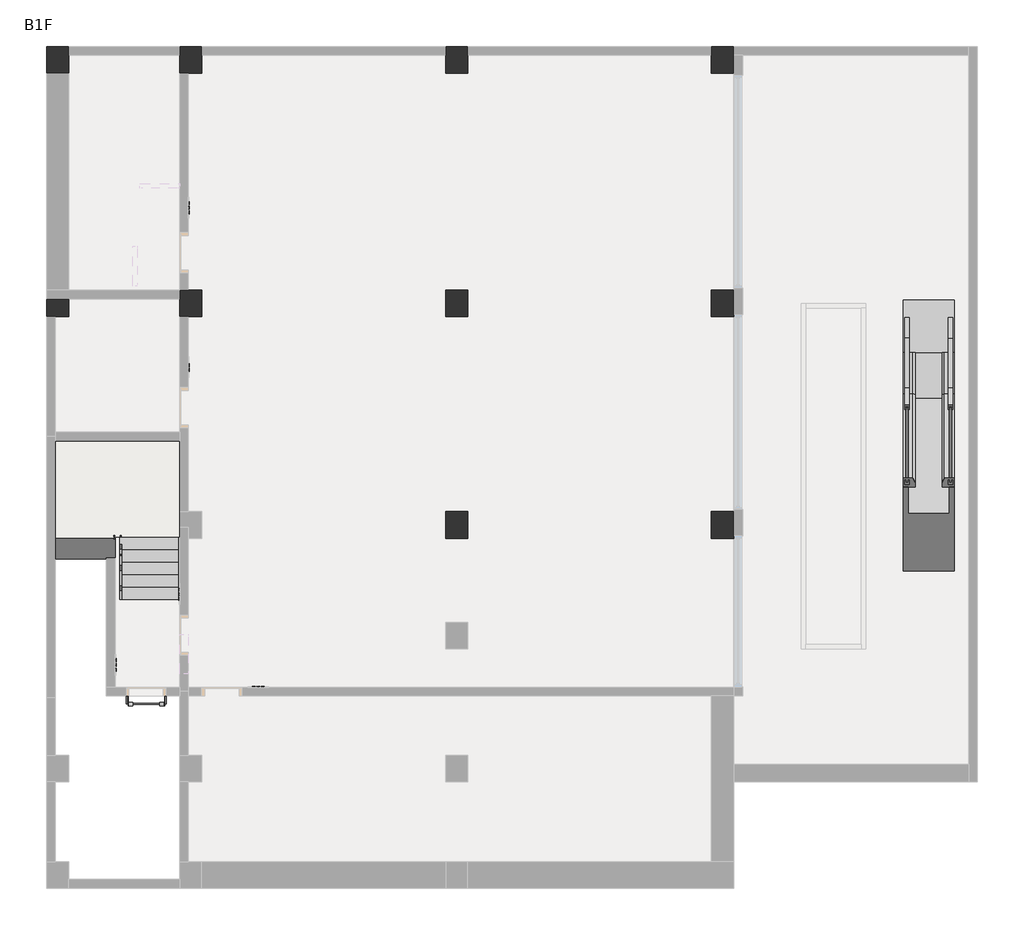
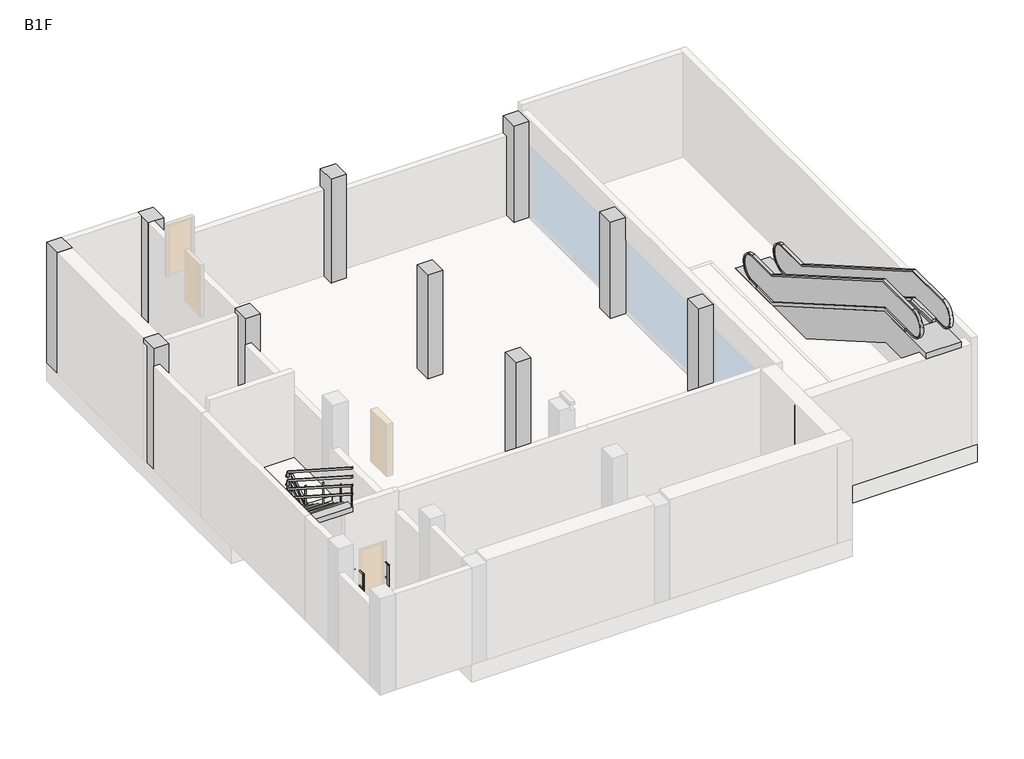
# One storey, part 2 of 2: 11 columns, 7 proxies, 2 slabs, 2 stair flights, 1 railing.
"""IFC4 building model written with IfcOpenShell, lengths in millimetres."""

from ifc_helpers import new_model, si_unit, frame, origin, place, context, project, spatial, polyline, outline, extrude, faceted_brep, transform, mapped, element, save
from components import electrical_equipment_015b20d0, specialty_equipment_72ed7d0d, railing_3f690383

model = new_model("IFC4")

# Units and contexts
model_context = context("Model", 3, world=origin())
ifc_project = project(units=[si_unit("LENGTHUNIT", "METRE", prefix="MILLI")], contexts=[model_context])

# Site, building, storey
site = spatial("IfcSite", under=ifc_project)
building = spatial("IfcBuilding", under=site)
storey = spatial("IfcBuildingStorey", under=building, Name="B1F", Elevation=-3600.0)

# Proxies
placement = place(None, origin())
electrical_equipment_shape = electrical_equipment_015b20d0(model_context)
element("IfcBuildingElementProxy", 1, Name="XX211- 에스컬레이터 공칭스텝폭 800 : 800형", ObjectType="XX211- 에스컬레이터 공칭스텝폭 800 : 800형", at=placement, inside=storey, context=model_context, shape_type="MappedRepresentation", body=[
    mapped(electrical_equipment_shape, transform((19650.0, 8436.9854476, -3600.0), x_axis=(0.0, -1.0, 0.0), y_axis=(1.0, 0.0, 0.0), z_axis=(0.0, 0.0, 1.0))),
])
specialty_equipment_shape = specialty_equipment_72ed7d0d(model_context)
element("IfcBuildingElementProxy", 2, Name="래더 : 표준", ObjectType="래더 : 표준", at=placement, inside=storey, context=model_context, shape_type="MappedRepresentation", body=[
    mapped(specialty_equipment_shape, transform((2000.0, 1752.7, -3600.0), x_axis=(-1.0, 0.0, 0.0), y_axis=(0.0, -1.0, 0.0), z_axis=(0.0, 0.0, 1.0))),
])
element("IfcBuildingElementProxy", 3, Name="600 mm Arial", ObjectType="600 mm Arial", at=placement, inside=storey, context=model_context, shape_type="SweptSolid", body=[
    extrude(outline(polyline([(4020.231068, -2400.1080632), (4020.231068, -2382.6725214), (4021.5645555, -2377.8935489), (4026.8445494, -2376.5523533), (4065.6467232, -2376.5523533), (4070.5721482, -2377.9783371), (4072.2447886, -2382.6725214), (4072.2447886, -2400.1080632), (4070.9190091, -2404.8099555), (4065.6467232, -2406.1511511), (4026.8445494, -2406.1511511), (4021.9037084, -2404.7714154), (4020.231068, -2400.1080632)]), holes=[polyline([(4029.9277575, -2384.784519), (4031.1302086, -2399.2447649), (4062.4710189, -2397.9189854), (4061.2685677, -2383.4587395), (4029.9277575, -2384.784519)])]), frame((2730.0, 0.0, 0.0), z_axis=(1.0, 0.0, 0.0), x_axis=(0.0, 1.0, 0.0)), (0.0, 0.0, 1.0), 10.0),
    extrude(outline(polyline([(4007.5282507, -2421.7676001), (4008.8231981, -2416.017417), (4084.7780295, -2417.0965398), (4083.5755783, -2422.9238031), (4050.4465073, -2422.9238031), (4050.4465073, -2438.494004), (4049.2440562, -2439.6964551), (4041.7826926, -2439.6964551), (4040.5802414, -2438.494004), (4040.5802414, -2422.9238031), (4007.5282507, -2421.7676001)])), frame((2730.0, 0.0, 0.0), z_axis=(1.0, 0.0, 0.0), x_axis=(0.0, 1.0, 0.0)), (0.0, 0.0, 1.0), 10.0),
    extrude(outline(polyline([(4016.8857872, -2454.6191823), (4018.1653186, -2448.5760944), (4063.4113974, -2447.0807385), (4064.6909287, -2429.8301892), (4073.2776633, -2431.0326404), (4073.2776633, -2449.2698163), (4071.9441758, -2454.0564968), (4066.7566782, -2455.4824806), (4016.8857872, -2454.6191823)])), frame((2730.0, 0.0, 0.0), z_axis=(1.0, 0.0, 0.0), x_axis=(0.0, 1.0, 0.0)), (0.0, 0.0, 1.0), 10.0),
    extrude(outline(polyline([(3909.6363937, -2454.4033577), (3910.7617646, -2376.5523533), (3919.5180756, -2377.6314762), (3919.5180756, -2402.2046447), (3938.4027252, -2403.067943), (3937.200274, -2409.1110308), (3919.5180756, -2409.1110308), (3918.3927046, -2455.4824806), (3909.6363937, -2454.4033577)])), frame((2730.0, 0.0, 0.0), z_axis=(1.0, 0.0, 0.0), x_axis=(0.0, 1.0, 0.0)), (0.0, 0.0, 1.0), 10.0),
    extrude(outline(polyline([(3971.100147, -2437.7232019), (3966.4213787, -2433.2987983), (3961.8659388, -2427.7181917), (3957.7036078, -2421.3205349), (3954.1887506, -2414.3679006), (3951.3521992, -2420.2799521), (3947.4056928, -2426.2228357), (3942.904209, -2431.6107419), (3938.4027252, -2435.7499488), (3935.6432539, -2435.5803723), (3932.0513165, -2431.4488735), (3932.2208929, -2428.8435626), (3937.8785798, -2423.6175249), (3943.1585737, -2416.8884232), (3947.4056928, -2409.3037313), (3949.9801716, -2401.4338427), (3949.5485224, -2380.7609324), (3958.3973297, -2381.7783911), (3959.0448034, -2395.8994841), (3962.0046831, -2408.1552363), (3968.3560918, -2420.3647404), (3977.8832048, -2430.8168158), (3978.1452775, -2433.5762871), (3974.1062749, -2437.6307057), (3971.100147, -2437.7232019)])), frame((2730.0, 0.0, 0.0), z_axis=(1.0, 0.0, 0.0), x_axis=(0.0, 1.0, 0.0)), (0.0, 0.0, 1.0), 10.0),
    extrude(outline(polyline([(3798.3634135, -2441.5772121), (3799.6583609, -2435.7499488), (3835.7010635, -2435.7499488), (3835.7010635, -2410.4676424), (3836.9035147, -2409.1110308), (3844.3648783, -2409.1110308), (3845.5673294, -2410.4676424), (3845.5673294, -2435.7499488), (3875.6131923, -2436.8290716), (3874.4107412, -2442.6563349), (3798.3634135, -2441.5772121)])), frame((2730.0, 0.0, 0.0), z_axis=(1.0, 0.0, 0.0), x_axis=(0.0, 1.0, 0.0)), (0.0, 0.0, 1.0), 10.0),
    extrude(outline(polyline([(3808.2296794, -2387.6519025), (3809.7327434, -2382.9577182), (3813.9798625, -2381.4854863), (3863.9432497, -2382.3487846), (3862.6483023, -2388.3918724), (3820.4237674, -2388.3918724), (3818.6663388, -2388.7079013), (3818.1113614, -2390.2726294), (3818.2809378, -2398.3891747), (3818.751127, -2407.4460985), (3819.5219291, -2416.3719859), (3819.5604692, -2425.8836829), (3811.1587271, -2425.2207931), (3809.0467296, -2409.0801987), (3808.2296794, -2387.6519025)])), frame((2730.0, 0.0, 0.0), z_axis=(1.0, 0.0, 0.0), x_axis=(0.0, 1.0, 0.0)), (0.0, 0.0, 1.0), 10.0),
])
element("IfcBuildingElementProxy", 4, Name="600 mm Arial", ObjectType="600 mm Arial", at=placement, inside=storey, context=model_context, shape_type="SweptSolid", body=[
    extrude(outline(polyline([(9031.5953673, -2446.2963666), (9029.8379387, -2451.8076011), (9024.8200175, -2456.2088806), (9016.7497203, -2459.0839722), (9005.9276599, -2460.1091389), (8995.1518476, -2459.0839722), (8987.0430103, -2456.2088806), (8981.9403009, -2451.8076011), (8980.1828723, -2446.2963666), (8981.9403009, -2440.8313803), (8987.0430103, -2436.4763488), (8995.1518476, -2433.5550092), (9005.9276599, -2432.4835943), (9016.7497203, -2433.5550092), (9024.8200175, -2436.4763488), (9029.8379387, -2440.8313803), (9031.5953673, -2446.2963666)]), holes=[polyline([(9021.2974522, -2446.2963666), (9017.2584496, -2441.3786497), (9005.9276599, -2439.3899805), (8994.7279065, -2441.3786497), (8990.74286, -2446.2963666), (8994.7279065, -2451.2140835), (9005.9276599, -2453.2027527), (9017.2584496, -2451.2140835), (9021.2974522, -2446.2963666)])]), frame((2960.0, 0.0, 0.0), z_axis=(1.0, 0.0, 0.0), x_axis=(0.0, 1.0, 0.0)), (0.0, 0.0, 1.0), 10.0),
    extrude(outline(polyline([(8972.459436, -2429.5237146), (8967.6496314, -2424.6830779), (8977.6469336, -2417.9077281), (8985.5476544, -2412.4427417), (8991.7217786, -2407.4016965), (8995.5372486, -2403.2701976), (8995.9303576, -2401.5436011), (8972.459436, -2400.9115434), (8971.3340651, -2394.8992877), (9001.3799279, -2394.0051573), (9006.6599218, -2394.9917839), (9008.5021386, -2398.2908166), (9008.0781975, -2400.3951061), (9007.130111, -2402.6689721), (9000.4395495, -2410.7315612), (9003.6537939, -2413.4524924), (9007.2611474, -2415.9344749), (9010.8607928, -2418.0464724), (9014.1752415, -2419.6574487), (9012.5411413, -2425.9009451), (9009.8741662, -2426.5638348), (9006.3130609, -2424.8372383), (9002.1969781, -2422.3552557), (8998.0346472, -2419.4416241), (8994.3347975, -2416.3892481), (8984.252707, -2423.6502031), (8972.459436, -2429.5237146)])), frame((2960.0, 0.0, 0.0), z_axis=(1.0, 0.0, 0.0), x_axis=(0.0, 1.0, 0.0)), (0.0, 0.0, 1.0), 10.0),
    extrude(outline(polyline([(9043.5273826, -2409.8374309), (9030.6549888, -2410.7778094), (9030.6549888, -2430.3407647), (9029.5296179, -2431.4969677), (9021.8986778, -2431.4969677), (9020.7733069, -2430.3099326), (9020.7733069, -2382.2735505), (9029.5296179, -2381.1790116), (9030.6549888, -2403.8714232), (9042.2324352, -2403.8714232), (9043.5273826, -2409.8374309)])), frame((2960.0, 0.0, 0.0), z_axis=(1.0, 0.0, 0.0), x_axis=(0.0, 1.0, 0.0)), (0.0, 0.0, 1.0), 10.0),
    extrude(outline(polyline([(9001.2103515, -2387.7308288), (8979.7512232, -2389.0720244), (8978.4562758, -2383.3372573), (8999.8383239, -2382.1656382), (9001.2103515, -2387.7308288)])), frame((2960.0, 0.0, 0.0), z_axis=(1.0, 0.0, 0.0), x_axis=(0.0, 1.0, 0.0)), (0.0, 0.0, 1.0), 10.0),
    extrude(outline(polyline([(9146.90735, -2446.2038704), (9070.8600224, -2447.2829932), (9069.6575712, -2441.4557299), (9099.7034341, -2440.3766071), (9099.7034341, -2415.0943007), (9100.9058852, -2413.7376891), (9108.3672488, -2413.7376891), (9109.5697, -2415.0943007), (9109.5697, -2440.3766071), (9145.6124026, -2440.3766071), (9146.90735, -2446.2038704)])), frame((2960.0, 0.0, 0.0), z_axis=(1.0, 0.0, 0.0), x_axis=(0.0, 1.0, 0.0)), (0.0, 0.0, 1.0), 10.0),
    extrude(outline(polyline([(9137.0410841, -2392.2785608), (9136.224034, -2413.706857), (9134.1120364, -2429.8474514), (9125.7102944, -2430.5103412), (9125.7488345, -2420.9986442), (9126.5196365, -2412.0727568), (9126.9898257, -2403.015833), (9127.1594022, -2394.8992877), (9126.6044247, -2393.3345596), (9124.8469961, -2393.0185307), (9082.6224612, -2393.0185307), (9081.3275138, -2386.9754429), (9131.290901, -2386.1121446), (9135.5380202, -2387.5843765), (9137.0410841, -2392.2785608)])), frame((2960.0, 0.0, 0.0), z_axis=(1.0, 0.0, 0.0), x_axis=(0.0, 1.0, 0.0)), (0.0, 0.0, 1.0), 10.0),
])
element("IfcBuildingElementProxy", 5, Name="600 mm Arial", ObjectType="600 mm Arial", at=placement, inside=storey, context=model_context, shape_type="SweptSolid", body=[
    extrude(outline(polyline([(12583.6662282, -2403.472991), (12582.2942006, -2407.7046941), (12577.1452431, -2409.1152618), (12562.638749, -2409.1152618), (12562.638749, -2418.9815277), (12594.997018, -2418.9815277), (12596.2765493, -2424.7317108), (12520.3217179, -2425.8879138), (12519.1192668, -2419.9835703), (12552.7570671, -2418.9815277), (12552.7570671, -2409.1152618), (12538.250573, -2409.1152618), (12533.0245353, -2407.8203144), (12531.6525077, -2403.1955023), (12531.6525077, -2380.5185067), (12540.3163224, -2379.5164641), (12541.5187736, -2388.3961034), (12573.7999623, -2388.3961034), (12573.7999623, -2380.7651634), (12582.5562733, -2379.5164641), (12583.6662282, -2403.472991)]), holes=[polyline([(12573.7999623, -2395.3024895), (12541.5187736, -2395.3024895), (12541.5187736, -2400.7751839), (12543.1528739, -2402.2088757), (12572.165862, -2402.2088757), (12573.7999623, -2400.7751839), (12573.7999623, -2395.3024895)])]), frame((2960.0, 0.0, 0.0), z_axis=(1.0, 0.0, 0.0), x_axis=(0.0, 1.0, 0.0)), (0.0, 0.0, 1.0), 10.0),
    extrude(outline(polyline([(12584.0053811, -2457.2595562), (12575.4186466, -2458.4465913), (12574.1391152, -2439.1765407), (12530.8817056, -2437.7274329), (12529.6792545, -2431.6843451), (12578.3476943, -2430.8210468), (12582.8029299, -2432.1391183), (12584.0053811, -2436.7099743), (12584.0053811, -2457.2595562)])), frame((2960.0, 0.0, 0.0), z_axis=(1.0, 0.0, 0.0), x_axis=(0.0, 1.0, 0.0)), (0.0, 0.0, 1.0), 10.0),
    extrude(outline(polyline([(12702.1539153, -2416.0062319), (12689.2815215, -2417.0082745), (12689.2815215, -2457.3366364), (12680.5252105, -2458.4465913), (12679.3998396, -2380.5955869), (12688.1561505, -2379.5164641), (12689.2815215, -2410.1018884), (12700.9514641, -2410.1018884), (12702.1539153, -2416.0062319)])), frame((2960.0, 0.0, 0.0), z_axis=(1.0, 0.0, 0.0), x_axis=(0.0, 1.0, 0.0)), (0.0, 0.0, 1.0), 10.0),
    extrude(outline(polyline([(12631.8567707, -2439.7006861), (12628.8506428, -2439.6081899), (12624.8116402, -2435.6154354), (12625.0737129, -2432.7943), (12634.6008259, -2422.6582534), (12640.9522346, -2410.7493621), (12642.7096632, -2404.613778), (12643.8658663, -2398.4319458), (12644.4670918, -2391.9109606), (12644.5595881, -2384.7425018), (12653.3929793, -2383.7250431), (12654.1714893, -2394.7475121), (12653.0538264, -2403.4575749), (12655.7208014, -2411.0422669), (12659.9216724, -2418.341762), (12665.10917, -2424.793375), (12670.6435286, -2429.8344202), (12670.8285211, -2432.3780669), (12667.2211676, -2436.5712299), (12664.4771124, -2436.7408063), (12660.0912489, -2432.6940957), (12655.6668452, -2427.491182), (12651.766587, -2421.7332909), (12648.8452473, -2416.0062319), (12645.3303901, -2423.0436544), (12641.1218111, -2429.5260994), (12636.527831, -2435.1914943), (12631.8567707, -2439.7006861)])), frame((2960.0, 0.0, 0.0), z_axis=(1.0, 0.0, 0.0), x_axis=(0.0, 1.0, 0.0)), (0.0, 0.0, 1.0), 10.0),
    extrude(outline(polyline([(12798.8433211, -2457.3983006), (12752.1481345, -2458.4465913), (12747.6004026, -2457.174768), (12746.3979515, -2453.2051376), (12746.3979515, -2442.8918065), (12747.5541545, -2438.9530081), (12752.0556383, -2437.7274329), (12785.9555113, -2437.7274329), (12786.988386, -2433.1488689), (12747.4154101, -2431.8076734), (12746.228375, -2425.949578), (12790.7653159, -2424.9012872), (12795.4517922, -2426.0343662), (12796.6079953, -2429.9115004), (12796.6079953, -2439.7006861), (12795.4517922, -2443.5855283), (12790.7653159, -2444.6338191), (12757.1275156, -2444.6338191), (12756.0946409, -2450.3069219), (12797.64087, -2451.5402052), (12798.8433211, -2457.3983006)])), frame((2960.0, 0.0, 0.0), z_axis=(1.0, 0.0, 0.0), x_axis=(0.0, 1.0, 0.0)), (0.0, 0.0, 1.0), 10.0),
    extrude(outline(polyline([(12737.0404149, -2420.9547809), (12734.2963597, -2420.8622846), (12730.8585827, -2416.5303773), (12746.1358788, -2401.1297528), (12750.7761069, -2381.782622), (12759.5324179, -2380.8422436), (12760.6423728, -2382.137191), (12760.2107237, -2388.9587889), (12759.0082726, -2395.1791612), (12762.615626, -2400.3974909), (12767.163358, -2404.9606389), (12772.1041989, -2408.5602843), (12776.9525437, -2411.088515), (12777.461273, -2413.0771842), (12774.5476414, -2417.3628435), (12772.3123155, -2417.9949011), (12762.7466624, -2412.229302), (12755.0617662, -2404.1204647), (12747.4616582, -2413.6938258), (12737.0404149, -2420.9547809)])), frame((2960.0, 0.0, 0.0), z_axis=(1.0, 0.0, 0.0), x_axis=(0.0, 1.0, 0.0)), (0.0, 0.0, 1.0), 10.0),
    extrude(outline(polyline([(12796.6079953, -2419.8756581), (12787.8516843, -2420.9547809), (12786.7417294, -2419.7831618), (12786.7417294, -2380.5955869), (12795.4980404, -2379.5164641), (12796.6079953, -2419.8756581)])), frame((2960.0, 0.0, 0.0), z_axis=(1.0, 0.0, 0.0), x_axis=(0.0, 1.0, 0.0)), (0.0, 0.0, 1.0), 10.0),
])
element("IfcBuildingElementProxy", 6, Name="600 mm Arial", ObjectType="600 mm Arial", at=placement, inside=storey, context=model_context, shape_type="SweptSolid", body=[
    extrude(outline(polyline([(-2432.6620766, 4661.4133321), (-2432.030019, 4664.0803071), (-2428.1297607, 4666.6547859), (-2420.0671716, 4656.773104), (-2413.0528732, 4648.8338431), (-2405.6223417, 4642.6597189), (-2398.4847149, 4638.7517526), (-2396.1106447, 4638.4511399), (-2395.1702662, 4639.9542038), (-2395.1702662, 4661.0741792), (-2389.2659227, 4662.2766304), (-2388.2638801, 4660.981683), (-2388.2638801, 4633.7723716), (-2389.6821558, 4628.1917649), (-2393.8444867, 4626.8197373), (-2395.7329517, 4627.2513864), (-2397.4518402, 4627.7601158), (-2403.9882414, 4630.511879), (-2410.6017227, 4634.71275), (-2414.0857479, 4631.1978928), (-2417.4387367, 4627.1203501), (-2420.4448646, 4622.9580192), (-2422.7958107, 4619.1887973), (-2425.169881, 4618.4950755), (-2429.2242996, 4621.3316269), (-2429.7021969, 4623.9831859), (-2427.5747833, 4627.6367875), (-2424.4992832, 4632.0072349), (-2420.8765137, 4636.4701786), (-2417.2152041, 4640.3858529), (-2425.8019386, 4650.0825424), (-2432.6620766, 4661.4133321)])), frame((0.0, 1850.0, 0.0), z_axis=(0.0, 1.0, 0.0), x_axis=(0.0, 0.0, 1.0)), (0.0, 0.0, 1.0), 10.0),
    extrude(outline(polyline([(-2411.465021, 4624.8464841), (-2405.9152464, 4625.4477097), (-2405.0365321, 4610.6020627), (-2384.440702, 4610.6020627), (-2383.3307471, 4601.8457517), (-2439.4605505, 4600.7203808), (-2440.5550894, 4609.4766918), (-2439.4143024, 4610.6020627), (-2411.9429183, 4610.6020627), (-2411.465021, 4624.8464841)])), frame((0.0, 1850.0, 0.0), z_axis=(0.0, 1.0, 0.0), x_axis=(0.0, 0.0, 1.0)), (0.0, 0.0, 1.0), 10.0),
    extrude(outline(polyline([(-2461.3975761, 4598.2383983), (-2462.2608744, 4644.1627828), (-2460.9042628, 4649.3502805), (-2456.2486186, 4650.683768), (-2437.7956181, 4650.683768), (-2436.608583, 4642.0970334), (-2453.9053804, 4640.8175021), (-2455.3544882, 4599.4408494), (-2461.3975761, 4598.2383983)])), frame((0.0, 1850.0, 0.0), z_axis=(0.0, 1.0, 0.0), x_axis=(0.0, 0.0, 1.0)), (0.0, 0.0, 1.0), 10.0),
    extrude(outline(polyline([(-2461.1817515, 4496.2304585), (-2462.2608744, 4504.9867695), (-2384.40987, 4506.0967244), (-2383.3307471, 4497.3404134), (-2461.1817515, 4496.2304585)])), frame((0.0, 1850.0, 0.0), z_axis=(0.0, 1.0, 0.0), x_axis=(0.0, 0.0, 1.0)), (0.0, 0.0, 1.0), 10.0),
    extrude(outline(polyline([(-2395.6944116, 4519.4007673), (-2411.1798242, 4522.8847924), (-2424.5069912, 4530.2690758), (-2435.9148612, 4541.1219683), (-2445.4882223, 4554.9347406), (-2440.78633, 4560.6078435), (-2421.6781478, 4539.6189044), (-2399.2555169, 4529.6216021), (-2396.7658264, 4529.7911786), (-2396.1568928, 4531.9340082), (-2396.1568928, 4556.1371917), (-2390.1138049, 4557.3396429), (-2389.2505067, 4525.4130231), (-2390.8383588, 4520.3565618), (-2395.6944116, 4519.4007673)])), frame((0.0, 1850.0, 0.0), z_axis=(0.0, 1.0, 0.0), x_axis=(0.0, 0.0, 1.0)), (0.0, 0.0, 1.0), 10.0),
    extrude(outline(polyline([(-2461.2125836, 4390.183516), (-2462.2608744, 4436.8787026), (-2460.989051, 4441.4264346), (-2457.0194206, 4442.6288857), (-2446.7060895, 4442.6288857), (-2442.7672912, 4441.4726827), (-2441.541716, 4436.9711989), (-2441.541716, 4403.0713259), (-2436.9631519, 4402.0384512), (-2435.6219564, 4441.6114271), (-2429.763861, 4442.7984622), (-2428.7155703, 4398.2615213), (-2429.8486493, 4393.575045), (-2433.7257834, 4392.4188419), (-2443.5149691, 4392.4188419), (-2447.3998113, 4393.575045), (-2448.4481021, 4398.2615213), (-2448.4481021, 4431.8993216), (-2454.121205, 4432.9321963), (-2455.3544882, 4391.3859672), (-2461.2125836, 4390.183516)])), frame((0.0, 1850.0, 0.0), z_axis=(0.0, 1.0, 0.0), x_axis=(0.0, 0.0, 1.0)), (0.0, 0.0, 1.0), 10.0),
    extrude(outline(polyline([(-2424.7690639, 4451.9864223), (-2424.6765677, 4454.7304775), (-2420.3446603, 4458.1682545), (-2404.9440359, 4442.8909584), (-2385.5969051, 4438.2507302), (-2384.6565266, 4429.4944193), (-2385.951474, 4428.3844643), (-2392.7730719, 4428.8161135), (-2398.9934443, 4430.0185646), (-2404.211774, 4426.4112112), (-2408.7749219, 4421.8634792), (-2412.3745674, 4416.9226382), (-2414.902798, 4412.0742935), (-2416.8914672, 4411.5655642), (-2421.1771265, 4414.4791958), (-2421.8091842, 4416.7145217), (-2416.043585, 4426.2801748), (-2407.9347477, 4433.965071), (-2417.5081089, 4441.5651789), (-2424.7690639, 4451.9864223)])), frame((0.0, 1850.0, 0.0), z_axis=(0.0, 1.0, 0.0), x_axis=(0.0, 0.0, 1.0)), (0.0, 0.0, 1.0), 10.0),
    extrude(outline(polyline([(-2423.6899411, 4392.4188419), (-2424.7690639, 4401.1751529), (-2423.5974448, 4402.2851078), (-2384.40987, 4402.2851078), (-2383.3307471, 4393.5287968), (-2423.6899411, 4392.4188419)])), frame((0.0, 1850.0, 0.0), z_axis=(0.0, 1.0, 0.0), x_axis=(0.0, 0.0, 1.0)), (0.0, 0.0, 1.0), 10.0),
])
element("IfcBuildingElementProxy", 7, Name="600 mm Arial", ObjectType="600 mm Arial", at=placement, inside=storey, context=model_context, shape_type="SweptSolid", body=[
    extrude(outline(polyline([(2206.3072825, -2442.6356321), (2200.2950267, -2437.7487473), (2211.2789556, -2427.5279125), (2220.1200548, -2418.3399523), (2226.8183244, -2408.8745035), (2230.7725387, -2399.917784), (2230.8496189, -2396.9424882), (2229.1384384, -2396.2641824), (2206.9855883, -2396.2641824), (2205.7831371, -2390.3598389), (2235.058198, -2389.3577962), (2240.2919437, -2390.6450356), (2242.1804087, -2393.9980244), (2242.0108322, -2396.2718904), (2241.5791831, -2398.3761799), (2238.2724424, -2407.163323), (2233.162025, -2416.1046265), (2236.9852031, -2420.9452632), (2241.4943949, -2425.9246442), (2246.0883749, -2430.410712), (2250.2429979, -2433.8022409), (2247.0672935, -2440.4928025), (2244.2461581, -2440.6623789), (2240.4692282, -2437.6639591), (2236.0448246, -2433.3551758), (2231.5741728, -2428.4220428), (2227.6739146, -2423.4889099), (2218.0234733, -2433.7097447), (2206.3072825, -2442.6356321)])), frame((1309.7569864, 0.0, 0.0), z_axis=(1.0, 0.0, 0.0), x_axis=(0.0, 1.0, 0.0)), (0.0, 0.0, 1.0), 10.0),
    extrude(outline(polyline([(2269.4822164, -2461.2890411), (2260.7259054, -2462.3681639), (2259.6005344, -2416.9833408), (2244.2461581, -2416.9833408), (2243.1207872, -2410.9402529), (2259.6005344, -2410.0769546), (2259.6005344, -2384.5171595), (2268.3568454, -2383.4380367), (2269.4822164, -2461.2890411)])), frame((1309.7569864, 0.0, 0.0), z_axis=(1.0, 0.0, 0.0), x_axis=(0.0, 1.0, 0.0)), (0.0, 0.0, 1.0), 10.0),
    extrude(outline(polyline([(2380.7551965, -2432.5997898), (2346.9324037, -2433.7559928), (2346.9324037, -2461.1965449), (2345.7299525, -2462.3681639), (2338.268589, -2462.3681639), (2337.0661378, -2461.1965449), (2337.0661378, -2433.7559928), (2304.7078688, -2433.7559928), (2303.5054177, -2427.9287295), (2379.4602491, -2426.8496067), (2380.7551965, -2432.5997898)])), frame((1309.7569864, 0.0, 0.0), z_axis=(1.0, 0.0, 0.0), x_axis=(0.0, 1.0, 0.0)), (0.0, 0.0, 1.0), 10.0),
    extrude(outline(polyline([(2314.0654054, -2417.9699674), (2309.0860243, -2412.7593457), (2320.9640835, -2407.0939508), (2329.3349935, -2401.6520885), (2334.9156002, -2394.3911335), (2337.4977869, -2384.9796408), (2346.2540979, -2383.7001094), (2347.4565491, -2385.072137), (2346.9324037, -2389.7894454), (2350.84037, -2396.5416711), (2357.1917786, -2402.3689344), (2365.2620758, -2406.9860385), (2374.3112916, -2410.0769546), (2372.7696875, -2416.2587869), (2370.9660108, -2416.9833408), (2362.6028088, -2414.5398984), (2354.5787598, -2410.5471439), (2347.7109138, -2405.4829746), (2342.7238247, -2399.7327915), (2331.2697066, -2410.8862968), (2314.0654054, -2417.9699674)])), frame((1309.7569864, 0.0, 0.0), z_axis=(1.0, 0.0, 0.0), x_axis=(0.0, 1.0, 0.0)), (0.0, 0.0, 1.0), 10.0),
    extrude(outline(polyline([(2419.8502751, -2426.8496067), (2415.5491999, -2421.8548096), (2439.582807, -2409.838006), (2455.214672, -2398.3299318), (2456.1550505, -2396.0021097), (2422.070185, -2395.2775558), (2420.9602301, -2389.249884), (2463.4468376, -2388.3711697), (2468.5957951, -2389.4425845), (2470.2298954, -2392.4872525), (2466.1138126, -2400.3956812), (2456.9258525, -2408.8128393), (2461.8589854, -2411.5491865), (2467.5243803, -2414.4936502), (2473.0587388, -2417.083545), (2477.691259, -2418.956594), (2478.4774771, -2420.498198), (2476.149655, -2425.2771705), (2468.2951823, -2423.7278585), (2461.9900218, -2420.9760953), (2455.4227885, -2417.7772669), (2449.0328398, -2414.3163658), (2435.0813231, -2421.5310727), (2419.8502751, -2426.8496067)])), frame((1309.7569864, 0.0, 0.0), z_axis=(1.0, 0.0, 0.0), x_axis=(0.0, 1.0, 0.0)), (0.0, 0.0, 1.0), 10.0),
    extrude(outline(polyline([(2485.3376151, -2448.4628954), (2409.2902874, -2449.5420183), (2408.0878363, -2443.6376748), (2441.6485564, -2442.6356321), (2441.6485564, -2426.1096367), (2442.8510075, -2424.8763535), (2450.3123711, -2424.8763535), (2451.6073185, -2442.6356321), (2484.0426677, -2442.6356321), (2485.3376151, -2448.4628954)])), frame((1309.7569864, 0.0, 0.0), z_axis=(1.0, 0.0, 0.0), x_axis=(0.0, 1.0, 0.0)), (0.0, 0.0, 1.0), 10.0),
])

# Columns
element("IfcColumn", 8, ObjectType="CL100-구조 기둥 : CL100-구조 기둥_500x600", at=placement, inside=storey, context=model_context, shape_type="Brep", body=[
    faceted_brep([(250.0, 10200.0, -3600.0), (-50.0, 10200.0, -3600.0), (-250.0, 10200.0, -3600.0), (-250.0, 10600.0, -3600.0), (250.0, 10600.0, -3600.0), (-250.0, 10200.0, 600.0), (-250.0, 10800.0, 600.0), (-250.0, 10800.0, 450.0), (-250.0, 10600.0, 450.0), (-250.0, 10200.0, 0.0), (-50.0, 10800.0, 600.0), (250.0, 10800.0, 600.0), (250.0, 10800.0, 450.0), (-50.0, 10800.0, 450.0), (250.0, 10600.0, 600.0), (250.0, 10200.0, 600.0), (250.0, 10600.0, 450.0), (-50.0, 10600.0, 450.0)], [[[0, 1, 2, 3, 4]], [[5, 6, 7, 8, 3, 2, 9]], [[6, 10, 11, 12, 13, 7]], [[11, 14, 15, 0, 4, 16, 12]], [[2, 1, 0, 15, 5, 9]], [[6, 5, 15, 14, 11, 10]], [[8, 17, 16, 4, 3]], [[17, 8, 7, 13]], [[17, 13, 12, 16]]]),
])
element("IfcColumn", 9, ObjectType="CL100-구조 기둥 : CL100-구조 기둥_500x600", at=placement, inside=storey, context=model_context, shape_type="Brep", body=[
    faceted_brep([(-250.0, 15700.0, -3600.0), (-250.0, 16300.0, -3600.0), (250.0, 16300.0, -3600.0), (250.0, 16100.0, -3600.0), (250.0, 15700.0, -3600.0), (-250.0, 15700.0, 600.0), (-250.0, 16300.0, 600.0), (250.0, 16300.0, 600.0), (250.0, 16100.0, 600.0), (250.0, 15700.0, 600.0), (250.0, 15700.0, 450.0), (-50.0, 15700.0, 600.0)], [[[0, 1, 2, 3, 4]], [[5, 6, 1, 0]], [[6, 7, 2, 1]], [[7, 8, 9, 10, 4, 3, 2]], [[9, 11, 5, 0, 4, 10]], [[5, 11, 9, 8, 7, 6]]]),
])
element("IfcColumn", 10, ObjectType="CL100-구조 기둥 : CL100-구조 기둥_500x600", at=placement, inside=storey, context=model_context, shape_type="Brep", body=[
    faceted_brep([(14750.0, -300.0, -3600.0), (14750.0, 300.0, -3600.0), (15250.0, 300.0, -3600.0), (15250.0, -300.0, -3600.0), (14750.0, -300.0, -250.0), (14750.0, 300.0, -250.0), (15250.0, 300.0, -250.0), (15250.0, -300.0, -250.0), (15250.0, -300.0, -850.0), (14850.0, -300.0, -250.0)], [[[0, 1, 2, 3]], [[4, 5, 1, 0]], [[5, 6, 2, 1]], [[6, 7, 8, 3, 2]], [[7, 9, 4, 0, 3, 8]], [[4, 9, 7, 6, 5]]]),
])
element("IfcColumn", 11, ObjectType="CL100-구조 기둥 : CL100-구조 기둥_500x600", at=placement, inside=storey, context=model_context, shape_type="Brep", body=[
    faceted_brep([(2750.0, 10200.0, -3600.0), (2750.0, 10600.0, -3600.0), (2750.0, 10800.0, -3600.0), (3250.0, 10800.0, -3600.0), (3250.0, 10200.0, -3600.0), (2950.0, 10200.0, -3600.0), (2750.0, 10200.0, -300.0), (2750.0, 10200.0, 600.0), (2750.0, 10800.0, 600.0), (2750.0, 10800.0, 450.0), (2750.0, 10800.0, -300.0), (3150.0, 10800.0, 600.0), (3250.0, 10800.0, 600.0), (3250.0, 10800.0, 0.0), (3250.0, 10800.0, -150.0), (3250.0, 10200.0, 600.0), (3250.0, 10200.0, 0.0), (3250.0, 10200.0, -150.0), (3150.0, 10200.0, 600.0)], [[[0, 1, 2, 3, 4, 5]], [[2, 1, 0, 6, 7, 8, 9, 10]], [[3, 2, 10, 9, 8, 11, 12, 13, 14]], [[4, 3, 14, 13, 12, 15, 16, 17]], [[0, 5, 4, 17, 16, 15, 18, 7, 6]], [[8, 7, 18, 15, 12, 11]]]),
])
element("IfcColumn", 12, ObjectType="CL100-구조 기둥 : CL100-구조 기둥_500x600", at=placement, inside=storey, context=model_context, shape_type="Brep", body=[
    faceted_brep([(2750.0, 15700.0, -3600.0), (2750.0, 16100.0, -3600.0), (2750.0, 16300.0, -3600.0), (3250.0, 16300.0, -3600.0), (3250.0, 16100.0, -3600.0), (3250.0, 15700.0, -3600.0), (2950.0, 15700.0, -3600.0), (2750.0, 15700.0, 600.0), (2750.0, 16100.0, 600.0), (2750.0, 16300.0, 600.0), (2750.0, 15700.0, -300.0), (2950.0, 16300.0, 600.0), (3250.0, 16300.0, 600.0), (3250.0, 16300.0, 0.0), (3250.0, 16300.0, -150.0), (3250.0, 16300.0, -600.0), (3250.0, 15700.0, 600.0), (3250.0, 15700.0, 0.0), (3250.0, 15700.0, -150.0), (3150.0, 15700.0, 600.0), (2950.0, 15700.0, 600.0)], [[[0, 1, 2, 3, 4, 5, 6]], [[7, 8, 9, 2, 1, 0, 10]], [[9, 11, 12, 13, 14, 15, 3, 2]], [[12, 16, 17, 18, 5, 4, 3, 15, 14, 13]], [[16, 19, 20, 7, 10, 0, 6, 5, 18, 17]], [[7, 20, 19, 16, 12, 11, 9, 8]]]),
])
element("IfcColumn", 13, ObjectType="CL100-구조 기둥 : CL100-구조 기둥_500x600", at=placement, inside=storey, context=model_context, shape_type="Brep", body=[
    faceted_brep([(8750.0, 5200.0, -3600.0), (8750.0, 5800.0, -3600.0), (9250.0, 5800.0, -3600.0), (9250.0, 5200.0, -3600.0), (8750.0, 5200.0, -150.0), (8750.0, 5200.0, 0.0), (8750.0, 5800.0, 0.0), (8750.0, 5800.0, -150.0), (9100.0, 5800.0, 0.0), (9250.0, 5800.0, 0.0), (9250.0, 5200.0, 0.0), (9100.0, 5200.0, 0.0)], [[[0, 1, 2, 3]], [[1, 0, 4, 5, 6, 7]], [[2, 1, 7, 6, 8, 9]], [[3, 2, 9, 10]], [[0, 3, 10, 11, 5, 4]], [[6, 5, 11, 10, 9, 8]]]),
])
element("IfcColumn", 14, ObjectType="CL100-구조 기둥 : CL100-구조 기둥_500x600", at=placement, inside=storey, context=model_context, shape_type="Brep", body=[
    faceted_brep([(8750.0, 10200.0, -3600.0), (8750.0, 10800.0, -3600.0), (9250.0, 10800.0, -3600.0), (9250.0, 10200.0, -3600.0), (8750.0, 10200.0, -150.0), (8750.0, 10200.0, 0.0), (8750.0, 10800.0, 0.0), (8750.0, 10800.0, -150.0), (9100.0, 10800.0, 0.0), (9250.0, 10800.0, 0.0), (9250.0, 10200.0, 0.0), (9250.0, 10200.0, -900.0), (9100.0, 10200.0, 0.0)], [[[0, 1, 2, 3]], [[1, 0, 4, 5, 6, 7]], [[2, 1, 7, 6, 8, 9]], [[3, 2, 9, 10, 11]], [[0, 3, 11, 10, 12, 5, 4]], [[6, 5, 12, 10, 9, 8]]]),
])
element("IfcColumn", 15, ObjectType="CL100-구조 기둥 : CL100-구조 기둥_500x600", at=placement, inside=storey, context=model_context, shape_type="Brep", body=[
    faceted_brep([(8750.0, 15700.0, -3600.0), (8750.0, 16100.0, -3600.0), (8750.0, 16300.0, -3600.0), (9250.0, 16300.0, -3600.0), (9250.0, 16100.0, -3600.0), (9250.0, 15700.0, -3600.0), (8750.0, 15700.0, -150.0), (8750.0, 15700.0, 0.0), (8750.0, 16300.0, 0.0), (8750.0, 16300.0, -150.0), (8750.0, 16300.0, -600.0), (9250.0, 16300.0, 0.0), (9250.0, 16300.0, -100.0), (9250.0, 16300.0, -250.0), (9250.0, 16300.0, -850.0), (9250.0, 15700.0, 0.0), (9100.0, 15700.0, 0.0)], [[[0, 1, 2, 3, 4, 5]], [[2, 1, 0, 6, 7, 8, 9, 10]], [[3, 2, 10, 9, 8, 11, 12, 13, 14]], [[5, 4, 3, 14, 13, 12, 11, 15]], [[0, 5, 15, 16, 7, 6]], [[8, 7, 16, 15, 11]]]),
])
element("IfcColumn", 16, ObjectType="CL100-구조 기둥 : CL100-구조 기둥_500x600", at=placement, inside=storey, context=model_context, shape_type="Brep", body=[
    faceted_brep([(14750.0, 5200.0, -3600.0), (14750.0, 5800.0, -3600.0), (15250.0, 5800.0, -3600.0), (15250.0, 5200.0, -3600.0), (14750.0, 5200.0, -250.0), (14750.0, 5800.0, -250.0), (15250.0, 5800.0, -250.0), (15250.0, 5800.0, -850.0), (15250.0, 5800.0, -1050.0), (15250.0, 5200.0, -250.0), (15250.0, 5200.0, -850.0), (15250.0, 5200.0, -1050.0)], [[[0, 1, 2, 3]], [[4, 5, 1, 0]], [[5, 6, 7, 8, 2, 1]], [[6, 9, 10, 11, 3, 2, 8, 7]], [[9, 4, 0, 3, 11, 10]], [[4, 9, 6, 5]]]),
])
element("IfcColumn", 17, ObjectType="CL100-구조 기둥 : CL100-구조 기둥_500x600", at=placement, inside=storey, context=model_context, shape_type="Brep", body=[
    faceted_brep([(14750.0, 10200.0, -3600.0), (14750.0, 10800.0, -3600.0), (15250.0, 10800.0, -3600.0), (15250.0, 10200.0, -3600.0), (14750.0, 10200.0, -250.0), (14750.0, 10800.0, -250.0), (15250.0, 10800.0, -250.0), (15250.0, 10800.0, -850.0), (15250.0, 10800.0, -1050.0), (15250.0, 10200.0, -250.0), (15250.0, 10200.0, -850.0), (15250.0, 10200.0, -1050.0)], [[[0, 1, 2, 3]], [[4, 5, 1, 0]], [[5, 6, 7, 8, 2, 1]], [[6, 9, 10, 11, 3, 2, 8, 7]], [[9, 4, 0, 3, 11, 10]], [[4, 9, 6, 5]]]),
])
element("IfcColumn", 18, ObjectType="CL100-구조 기둥 : CL100-구조 기둥_500x600", at=placement, inside=storey, context=model_context, shape_type="Brep", body=[
    faceted_brep([(14750.0, 15700.0, -3600.0), (14750.0, 16100.0, -3600.0), (14750.0, 16300.0, -3600.0), (15250.0, 16300.0, -3600.0), (15250.0, 15700.0, -3600.0), (14750.0, 15700.0, -250.0), (14750.0, 16300.0, -250.0), (14750.0, 16300.0, -850.0), (15250.0, 16300.0, -250.0), (15250.0, 15700.0, -250.0), (15250.0, 15700.0, -850.0), (15250.0, 15700.0, -1050.0)], [[[0, 1, 2, 3, 4]], [[5, 6, 7, 2, 1, 0]], [[6, 8, 3, 2, 7]], [[8, 9, 10, 11, 4, 3]], [[9, 5, 0, 4, 11, 10]], [[5, 9, 8, 6]]]),
])

# Railing
railing_shape = railing_3f690383(model_context)
element("IfcRailing", 19, ObjectType="RL780-금속재 난간", at=placement, inside=storey, context=model_context, shape_type="MappedRepresentation", body=[
    mapped(railing_shape, transform((0.0, 0.0, 0.0), x_axis=(1.0, 0.0, 0.0), y_axis=(0.0, 1.0, 0.0), z_axis=(0.0, 0.0, 1.0))),
])

# Slabs
element("IfcSlab", 20, ObjectType="FT100-구조 기초 600", at=placement, inside=storey, context=model_context, shape_type="Brep", body=[
    faceted_brep([(15250.0, 16300.0, -4300.0), (20750.0, 16300.0, -4300.0), (20750.0, 10931.9854476, -4300.0), (20750.0, 10581.9854476, -4300.0), (17925.0, 10581.9854476, -4300.0), (17925.0, 4056.9854476, -4300.0), (20750.0, 4056.9854476, -4300.0), (20750.0, 3706.9854476, -4300.0), (20750.0, -300.0, -4300.0), (15250.0, -300.0, -4300.0), (15250.0, 16300.0, -3700.0), (15250.0, 16100.0, -3700.0), (15250.0, -300.0, -3700.0), (20550.0, -300.0, -3700.0), (20750.0, -300.0, -3700.0), (20750.0, 4056.9854476, -3700.0), (20550.0, 4056.9854476, -3700.0), (17925.0, 4056.9854476, -3700.0), (17925.0, 10581.9854476, -3700.0), (19075.0, 10581.9854476, -3700.0), (20225.0, 10581.9854476, -3700.0), (20550.0, 10581.9854476, -3700.0), (20750.0, 10581.9854476, -3700.0), (20750.0, 16300.0, -3700.0), (20550.0, 16300.0, -3700.0), (15250.0, 16300.0, -4200.0), (17925.0, 10581.9854476, -3850.0), (17925.0, 4056.9854476, -3850.0)], [[[0, 1, 2, 3, 4, 5, 6, 7, 8, 9]], [[10, 11, 12, 13, 14, 15, 16, 17, 18, 19, 20, 21, 22, 23, 24]], [[0, 9, 12, 11, 10, 25]], [[1, 0, 25, 10, 24, 23]], [[8, 7, 6, 15, 14]], [[9, 8, 14, 13, 12]], [[3, 2, 1, 23, 22]], [[4, 3, 22, 21, 20, 19, 18, 26]], [[5, 4, 26, 18, 17, 27]], [[6, 5, 27, 17, 16, 15]]]),
])
element("IfcSlab", 21, ObjectType="일체형 계단참 150mm_철근콘크리트", at=placement, inside=storey, context=model_context, shape_type="Brep", body=[
    faceted_brep([(1399.7569864, 5225.0979122, -2520.0), (2725.0, 5225.0979122, -2520.0), (2750.0, 5225.0979122, -2520.0), (2750.0, 7400.0979122, -2520.0), (-50.0, 7400.0979122, -2520.0), (-50.0, 5200.0, -2520.0), (1299.7569864, 5200.0, -2520.0), (1299.7569864, 5225.0979122, -2520.0), (2750.0, 5225.0979122, -2670.0), (2750.0, 7400.0979122, -2670.0), (-50.0, 7400.0979122, -2670.0), (1299.7569864, 5200.0, -2670.0), (1299.7569864, 5225.0979122, -2670.0), (2725.0, 5549.1531951, -2670.0), (1399.7569864, 5549.1531951, -2670.0), (1399.7569864, 5225.0979122, -2670.0), (-50.0, 5200.0, -2670.0), (2725.0, 5225.0979122, -2670.0), (2725.0, 5225.0979122, -2878.3212533), (1399.7569864, 5225.0979122, -2878.3212533), (2725.0, 5225.0979122, -2700.0), (1399.7569864, 5225.0979122, -2700.0)], [[[0, 1, 2, 3, 4, 5, 6, 7]], [[3, 2, 8, 9]], [[4, 3, 9, 10]], [[7, 6, 11, 12]], [[13, 14, 15, 12, 11, 16, 10, 9, 8, 17]], [[14, 13, 18, 19]], [[13, 17, 20, 18]], [[15, 14, 19, 21]], [[0, 7, 12, 15]], [[1, 0, 15, 21, 19, 18, 20, 17]], [[5, 4, 10, 16]], [[6, 5, 16, 11]], [[2, 1, 17, 8]]]),
])

# Stair flights
element("IfcStairFlight", 22, ObjectType="일체형 계단진행 150mm_철근콘크리트", at=placement, inside=storey, context=model_context, shape_type="Brep", body=[
    faceted_brep([(1399.7569864, 4105.0979122, -3420.0), (1399.7569864, 3825.0979122, -3420.0), (2725.0, 3825.0979122, -3420.0), (2725.0, 4105.0979122, -3420.0), (1399.7569864, 4105.0979122, -3598.3212533), (1399.7569864, 4102.4865284, -3600.0), (1399.7569864, 3825.0979122, -3600.0), (2725.0, 3825.0979122, -3600.0), (2725.0, 4102.4865284, -3600.0), (2725.0, 4105.0979122, -3598.3212533), (1399.7569864, 4385.0979122, -3240.0), (1399.7569864, 4105.0979122, -3240.0), (2725.0, 4105.0979122, -3240.0), (2725.0, 4385.0979122, -3240.0), (1399.7569864, 4385.0979122, -3418.3212533), (2725.0, 4385.0979122, -3418.3212533), (1399.7569864, 4665.0979122, -3060.0), (1399.7569864, 4385.0979122, -3060.0), (2725.0, 4385.0979122, -3060.0), (2725.0, 4665.0979122, -3060.0), (1399.7569864, 4665.0979122, -3238.3212533), (2725.0, 4665.0979122, -3238.3212533), (1399.7569864, 4945.0979122, -2880.0), (1399.7569864, 4665.0979122, -2880.0), (2725.0, 4665.0979122, -2880.0), (2725.0, 4945.0979122, -2880.0), (1399.7569864, 4945.0979122, -3058.3212533), (2725.0, 4945.0979122, -3058.3212533), (1399.7569864, 5225.0979122, -2700.0), (1399.7569864, 4945.0979122, -2700.0), (2725.0, 4945.0979122, -2700.0), (2725.0, 5225.0979122, -2700.0), (1399.7569864, 5225.0979122, -2878.3212533), (2725.0, 5225.0979122, -2878.3212533)], [[[0, 1, 2, 3]], [[1, 0, 4, 5, 6]], [[2, 1, 6, 7]], [[3, 2, 7, 8, 9]], [[10, 11, 12, 13]], [[11, 10, 14, 4, 0]], [[0, 3, 12, 11]], [[13, 12, 3, 9, 15]], [[16, 17, 18, 19]], [[17, 16, 20, 14, 10]], [[10, 13, 18, 17]], [[19, 18, 13, 15, 21]], [[22, 23, 24, 25]], [[23, 22, 26, 20, 16]], [[16, 19, 24, 23]], [[25, 24, 19, 21, 27]], [[28, 29, 30, 31]], [[29, 28, 32, 26, 22]], [[22, 25, 30, 29]], [[31, 30, 25, 27, 33]], [[28, 31, 33, 32]], [[7, 6, 5, 8]], [[8, 5, 4, 14, 20, 26, 32, 33, 27, 21, 15, 9]]]),
])
element("IfcStairFlight", 23, ObjectType="일체형 계단진행 150mm_철근콘크리트", at=placement, inside=storey, context=model_context, shape_type="Brep", body=[
    faceted_brep([(1299.7569864, 5200.0, -2340.0), (-50.0, 5200.0, -2340.0), (-50.0, 5155.944717, -2340.0), (-50.0, 4920.0, -2340.0), (1299.7569864, 4920.0, -2340.0), (1299.7569864, 5155.944717, -2340.0), (1299.7569864, 4920.0, -2518.3212533), (1299.7569864, 5155.944717, -2670.0), (1299.7569864, 5200.0, -2670.0), (1299.7569864, 5200.0, -2520.0), (-50.0, 5200.0, -2670.0), (-50.0, 5200.0, -2520.0), (-50.0, 5155.944717, -2670.0), (-50.0, 4920.0, -2518.3212533), (1299.7569864, 4640.0, -2160.0), (1299.7569864, 4920.0, -2160.0), (-50.0, 4920.0, -2160.0), (-50.0, 4640.0, -2160.0), (1299.7569864, 4640.0, -2338.3212533), (-50.0, 4640.0, -2338.3212533), (1299.7569864, 4360.0, -1980.0), (1299.7569864, 4640.0, -1980.0), (-50.0, 4640.0, -1980.0), (-50.0, 4360.0, -1980.0), (1299.7569864, 4360.0, -2158.3212533), (-50.0, 4360.0, -2158.3212533), (1299.7569864, 4080.0, -1800.0), (1299.7569864, 4360.0, -1800.0), (-50.0, 4360.0, -1800.0), (-50.0, 4080.0, -1800.0), (1299.7569864, 4080.0, -1978.3212533), (-50.0, 4080.0, -1978.3212533), (1299.7569864, 3800.0, -1620.0), (1299.7569864, 4080.0, -1620.0), (-50.0, 4080.0, -1620.0), (-50.0, 3800.0, -1620.0), (1299.7569864, 3800.0, -1798.3212533), (-50.0, 3800.0, -1798.3212533), (1299.7569864, 3520.0, -1440.0), (1299.7569864, 3800.0, -1440.0), (-50.0, 3800.0, -1440.0), (-50.0, 3520.0, -1440.0), (1299.7569864, 3520.0, -1618.3212533), (-50.0, 3520.0, -1618.3212533), (1299.7569864, 3240.0, -1260.0), (1299.7569864, 3520.0, -1260.0), (-50.0, 3520.0, -1260.0), (-50.0, 3240.0, -1260.0), (1299.7569864, 3240.0, -1438.3212533), (-50.0, 3240.0, -1438.3212533), (1299.7569864, 2960.0, -1080.0), (1299.7569864, 3240.0, -1080.0), (-50.0, 3240.0, -1080.0), (-50.0, 2960.0, -1080.0), (1299.7569864, 2960.0, -1258.3212533), (-50.0, 2960.0, -1258.3212533), (1299.7569864, 2680.0, -900.0), (1299.7569864, 2960.0, -900.0), (-50.0, 2960.0, -900.0), (-50.0, 2680.0, -900.0), (1299.7569864, 2680.0, -1078.3212533), (-50.0, 2680.0, -1078.3212533), (1299.7569864, 2400.0, -720.0), (1299.7569864, 2680.0, -720.0), (-50.0, 2680.0, -720.0), (-50.0, 2400.0, -720.0), (1299.7569864, 2400.0, -898.3212533), (-50.0, 2400.0, -898.3212533), (1299.7569864, 2120.0, -540.0), (1299.7569864, 2400.0, -540.0), (-50.0, 2400.0, -540.0), (-50.0, 2120.0, -540.0), (1299.7569864, 2120.0, -718.3212533), (-50.0, 2120.0, -718.3212533), (1299.7569864, 1840.0, -360.0), (1299.7569864, 2120.0, -360.0), (-50.0, 2120.0, -360.0), (-50.0, 1840.0, -360.0), (1299.7569864, 1840.0, -538.3212533), (-50.0, 1840.0, -538.3212533), (1299.7569864, 1560.0, -180.0), (1299.7569864, 1840.0, -180.0), (-50.0, 1840.0, -180.0), (-50.0, 1560.0, -180.0), (1299.7569864, 1560.0, -358.3212533), (-50.0, 1560.0, -358.3212533)], [[[0, 1, 2, 3, 4, 5]], [[4, 6, 7, 8, 9, 0, 5]], [[1, 0, 9, 8, 10, 11]], [[1, 11, 10, 12, 13, 3, 2]], [[14, 15, 16, 17]], [[15, 14, 18, 6, 4]], [[16, 15, 4, 3]], [[17, 16, 3, 13, 19]], [[20, 21, 22, 23]], [[21, 20, 24, 18, 14]], [[22, 21, 14, 17]], [[23, 22, 17, 19, 25]], [[26, 27, 28, 29]], [[27, 26, 30, 24, 20]], [[28, 27, 20, 23]], [[29, 28, 23, 25, 31]], [[32, 33, 34, 35]], [[33, 32, 36, 30, 26]], [[34, 33, 26, 29]], [[35, 34, 29, 31, 37]], [[38, 39, 40, 41]], [[39, 38, 42, 36, 32]], [[40, 39, 32, 35]], [[41, 40, 35, 37, 43]], [[44, 45, 46, 47]], [[45, 44, 48, 42, 38]], [[46, 45, 38, 41]], [[47, 46, 41, 43, 49]], [[50, 51, 52, 53]], [[51, 50, 54, 48, 44]], [[52, 51, 44, 47]], [[53, 52, 47, 49, 55]], [[56, 57, 58, 59]], [[57, 56, 60, 54, 50]], [[58, 57, 50, 53]], [[59, 58, 53, 55, 61]], [[62, 63, 64, 65]], [[63, 62, 66, 60, 56]], [[64, 63, 56, 59]], [[65, 64, 59, 61, 67]], [[68, 69, 70, 71]], [[69, 68, 72, 66, 62]], [[70, 69, 62, 65]], [[71, 70, 65, 67, 73]], [[74, 75, 76, 77]], [[75, 74, 78, 72, 68]], [[76, 75, 68, 71]], [[77, 76, 71, 73, 79]], [[80, 81, 82, 83]], [[81, 80, 84, 78, 74]], [[82, 81, 74, 77]], [[83, 82, 77, 79, 85]], [[80, 83, 85, 84]], [[12, 7, 6, 18, 24, 30, 36, 42, 48, 54, 60, 66, 72, 78, 84, 85, 79, 73, 67, 61, 55, 49, 43, 37, 31, 25, 19, 13]], [[7, 12, 10, 8]]]),
])

save(model, "model.ifc")
